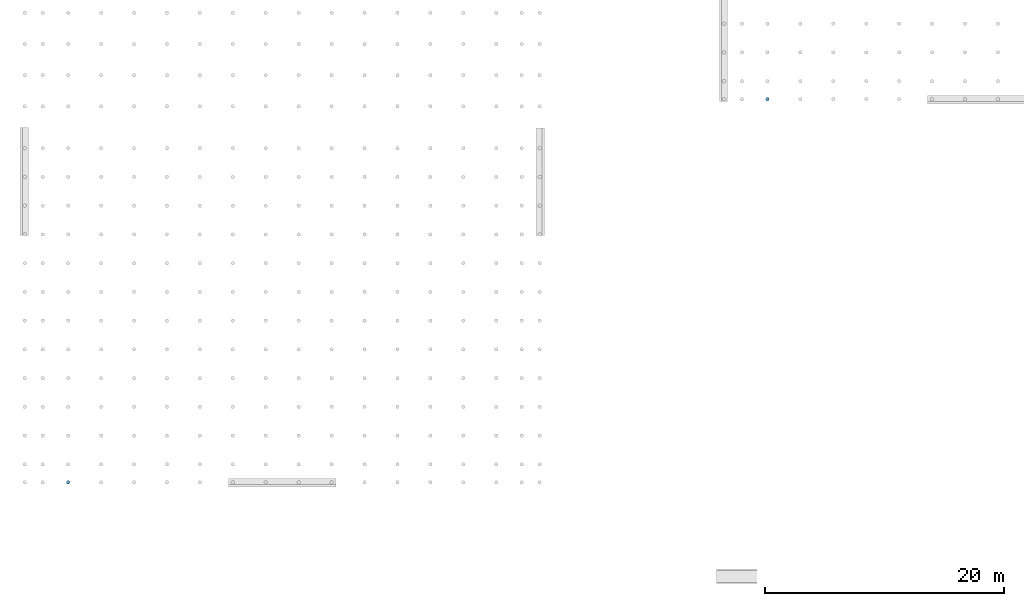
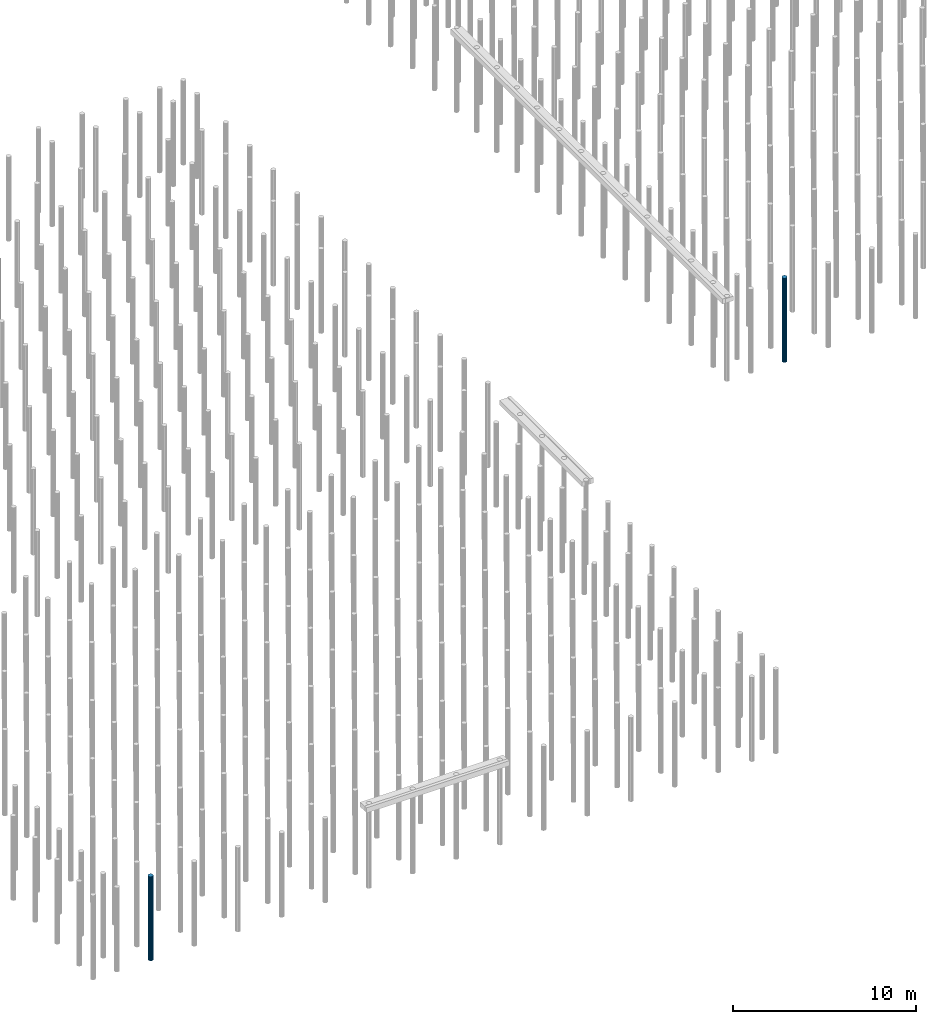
# One storey, part 1 of 102: 4 slabs.
"""IFC2X3 building model written with IfcOpenShell, lengths in millimetres."""

from ifc_helpers import new_model, entity, si_unit, converted_unit, derived_unit, money_unit, direction, frame, origin_with_axes, place, context, subcontext, project, spatial, faceted_brep, source, transform, mapped, material, type_object, type_shapes, element, save


model = new_model("IFC2X3")

# Units and contexts
model_context = context("Model", 3, precision=0.01, world=origin_with_axes(), true_north=direction((0.0, 1.0)))
body_context = subcontext(model_context, "Body", "Model", "MODEL_VIEW")
ifc_project = project(units=[si_unit("LENGTHUNIT", "METRE", prefix="MILLI"), si_unit("AREAUNIT", "SQUARE_METRE"), si_unit("VOLUMEUNIT", "CUBIC_METRE"), converted_unit("PLANEANGLEUNIT", "DEGREE", entity("IfcPlaneAngleMeasure", 0.0174532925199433), si_unit("PLANEANGLEUNIT", "RADIAN"), dimensions=[0, 0, 0, 0, 0, 0, 0]), money_unit("EUR"), converted_unit("TIMEUNIT", "Year", entity("IfcTimeMeasure", 31557600.0), si_unit("TIMEUNIT", "SECOND"), dimensions=[0, 0, 1, 0, 0, 0, 0]), si_unit("MASSUNIT", "GRAM", prefix="KILO"), si_unit("THERMODYNAMICTEMPERATUREUNIT", "DEGREE_CELSIUS"), si_unit("LUMINOUSINTENSITYUNIT", "LUMEN"), si_unit("ENERGYUNIT", "JOULE", prefix="MEGA"), derived_unit("THERMALCONDUCTANCEUNIT", [(si_unit("POWERUNIT", "WATT"), 1), (si_unit("LENGTHUNIT", "METRE"), -1), (si_unit("THERMODYNAMICTEMPERATUREUNIT", "KELVIN"), -1)]), derived_unit("SPECIFICHEATCAPACITYUNIT", [(si_unit("ENERGYUNIT", "JOULE"), 1), (si_unit("MASSUNIT", "GRAM", prefix="KILO"), -1), (si_unit("THERMODYNAMICTEMPERATUREUNIT", "KELVIN"), -1)]), derived_unit("MASSDENSITYUNIT", [(si_unit("MASSUNIT", "GRAM", prefix="KILO"), 1), (si_unit("VOLUMEUNIT", "CUBIC_METRE"), -1)])], contexts=[model_context])

# Site, building, storey
site_placement = place(None, origin_with_axes())
site = spatial("IfcSite", under=ifc_project, at=site_placement, Name="Site", CompositionType="ELEMENT")
building_placement = place(site_placement, origin_with_axes())
building = spatial("IfcBuilding", under=site, at=building_placement, Name="Naam gebouw", CompositionType="ELEMENT")
storey_placement = place(building_placement, frame((0.0, 0.0, -1020.0), z_axis=(0.0, 0.0, 1.0), x_axis=(1.0, 0.0, 0.0)))
storey = spatial("IfcBuildingStorey", under=building, at=storey_placement, Name="-2 fundering", CompositionType="ELEMENT", Elevation=-1020.0)

# Slabs
ifc_material = material(Name="WSP_beton - ihwg beton")
slab_type_1 = type_object("IfcSlabType", Name="Slab 397", PredefinedType="NOTDEFINED")
shared_shape_1 = source(origin_with_axes(), body_context, "Body", "Brep", [
    faceted_brep([(3726.0, 101.0, -5980.0), (3724.0, 101.0, -5980.0), (3724.0, 101.0, -5978.000000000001), (3726.0, 101.0, -5978.000000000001), (3726.0, 99.0, -5980.0), (3724.0, 99.0, -5980.0), (3724.0, 99.0, -5978.000000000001), (3726.0, 99.0, -5978.000000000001)], [[[0, 1, 2, 3]], [[0, 4, 5, 1]], [[1, 5, 6, 2]], [[3, 2, 6, 7]], [[4, 0, 3, 7]], [[5, 4, 7, 6]]]),
    faceted_brep([(3575.0, 100.0, -5980.0), (3586.418070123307, 42.59748514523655, -5980.0), (3586.418070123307, 42.59748514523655, -380.0000000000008), (3575.0, 100.0, -380.0000000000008), (3586.418070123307, 157.4025148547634, -5980.0), (3618.933982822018, 206.0660171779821, -5980.0), (3667.597485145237, 238.581929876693, -5980.0), (3725.0, 250.0, -5980.0), (3782.402514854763, 238.581929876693, -5980.0), (3831.066017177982, 206.0660171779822, -5980.0), (3863.581929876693, 157.4025148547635, -5980.0), (3875.0, 100.0, -5980.0), (3863.581929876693, 42.59748514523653, -5980.0), (3831.066017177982, -6.066017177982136, -5980.0), (3782.402514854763, -38.58192987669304, -5980.0), (3725.0, -50.00000000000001, -5980.0), (3667.597485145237, -38.58192987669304, -5980.0), (3618.933982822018, -6.066017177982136, -5980.0), (3618.933982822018, -6.066017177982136, -380.0000000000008), (3667.597485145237, -38.58192987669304, -380.0000000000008), (3725.0, -50.00000000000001, -380.0000000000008), (3782.402514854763, -38.58192987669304, -380.0000000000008), (3831.066017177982, -6.066017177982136, -380.0000000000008), (3863.581929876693, 42.59748514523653, -380.0000000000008), (3875.0, 100.0, -380.0000000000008), (3863.581929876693, 157.4025148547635, -380.0000000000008), (3831.066017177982, 206.0660171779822, -380.0000000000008), (3782.402514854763, 238.581929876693, -380.0000000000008), (3725.0, 250.0, -380.0000000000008), (3667.597485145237, 238.581929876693, -380.0000000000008), (3618.933982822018, 206.0660171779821, -380.0000000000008), (3586.418070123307, 157.4025148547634, -380.0000000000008)], [[[0, 1, 2, 3]], [[0, 4, 5, 6, 7, 8, 9, 10, 11, 12, 13, 14, 15, 16, 17, 1]], [[1, 17, 18, 2]], [[3, 2, 18, 19, 20, 21, 22, 23, 24, 25, 26, 27, 28, 29, 30, 31]], [[4, 0, 3, 31]], [[5, 4, 31, 30]], [[6, 5, 30, 29]], [[7, 6, 29, 28]], [[8, 7, 28, 27]], [[9, 8, 27, 26]], [[10, 9, 26, 25]], [[11, 10, 25, 24]], [[12, 11, 24, 23]], [[13, 12, 23, 22]], [[14, 13, 22, 21]], [[15, 14, 21, 20]], [[16, 15, 20, 19]], [[17, 16, 19, 18]]]),
])
type_shapes(slab_type_1, [shared_shape_1])
slab_1_placement = place(storey_placement, frame((25299.99999999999, 30000.0, 979.9999952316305), z_axis=(0.0, 0.0, 1.0), x_axis=(1.0, 0.0, 0.0)))
element("IfcSlab", 1, at=slab_1_placement, inside=storey, type_object=slab_type_1, material=ifc_material, Name="17_WSP_FD_beton - fundatiepaal v21-2:ø300 (schroef)", PredefinedType="NOTDEFINED", context=body_context, shape_type="MappedRepresentation", body=[
    mapped(shared_shape_1, transform((0.0, 0.0, 0.0))),
])
slab_type_2 = type_object("IfcSlabType", Name="Slab 929", PredefinedType="NOTDEFINED")
type_shapes(slab_type_2, [shared_shape_1])
slab_2_placement = place(storey_placement, frame((25299.99999999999, 30000.0, 979.9999952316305), z_axis=(0.0, 0.0, 1.0), x_axis=(1.0, 0.0, 0.0)))
element("IfcSlab", 2, at=slab_2_placement, inside=storey, type_object=slab_type_2, material=ifc_material, Name="17_WSP_FD_beton - fundatiepaal v21-2:ø300 (schroef)", PredefinedType="NOTDEFINED", context=body_context, shape_type="MappedRepresentation", body=[
    mapped(shared_shape_1, transform((0.0, 0.0, 0.0))),
])
slab_type_3 = type_object("IfcSlabType", Name="Slab 695", PredefinedType="NOTDEFINED")
shared_shape_2 = source(origin_with_axes(), body_context, "Body", "Brep", [
    faceted_brep([(62126.0, 32101.0, -5980.0), (62124.0, 32101.0, -5980.0), (62124.0, 32101.0, -5978.000000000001), (62126.0, 32101.0, -5978.000000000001), (62126.0, 32099.0, -5980.0), (62124.0, 32099.0, -5980.0), (62124.0, 32099.0, -5978.000000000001), (62126.0, 32099.0, -5978.000000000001)], [[[0, 1, 2, 3]], [[0, 4, 5, 1]], [[1, 5, 6, 2]], [[3, 2, 6, 7]], [[4, 0, 3, 7]], [[5, 4, 7, 6]]]),
    faceted_brep([(61975.0, 32100.0, -5980.0), (61986.41807012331, 32042.59748514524, -5980.0), (61986.41807012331, 32042.59748514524, -380.0000000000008), (61975.0, 32100.0, -380.0000000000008), (61986.41807012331, 32157.40251485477, -5980.0), (62018.93398282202, 32206.06601717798, -5980.0), (62067.59748514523, 32238.58192987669, -5980.0), (62125.0, 32250.0, -5980.0), (62182.40251485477, 32238.58192987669, -5980.0), (62231.06601717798, 32206.06601717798, -5980.0), (62263.58192987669, 32157.40251485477, -5980.0), (62275.0, 32100.0, -5980.0), (62263.58192987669, 32042.59748514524, -5980.0), (62231.06601717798, 31993.93398282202, -5980.0), (62182.40251485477, 31961.41807012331, -5980.0), (62125.0, 31950.0, -5980.0), (62067.59748514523, 31961.41807012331, -5980.0), (62018.93398282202, 31993.93398282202, -5980.0), (62018.93398282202, 31993.93398282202, -380.0000000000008), (62067.59748514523, 31961.41807012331, -380.0000000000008), (62125.0, 31950.0, -380.0000000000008), (62182.40251485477, 31961.41807012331, -380.0000000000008), (62231.06601717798, 31993.93398282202, -380.0000000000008), (62263.58192987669, 32042.59748514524, -380.0000000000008), (62275.0, 32100.0, -380.0000000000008), (62263.58192987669, 32157.40251485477, -380.0000000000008), (62231.06601717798, 32206.06601717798, -380.0000000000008), (62182.40251485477, 32238.58192987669, -380.0000000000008), (62125.0, 32250.0, -380.0000000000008), (62067.59748514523, 32238.58192987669, -380.0000000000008), (62018.93398282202, 32206.06601717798, -380.0000000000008), (61986.41807012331, 32157.40251485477, -380.0000000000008)], [[[0, 1, 2, 3]], [[0, 4, 5, 6, 7, 8, 9, 10, 11, 12, 13, 14, 15, 16, 17, 1]], [[1, 17, 18, 2]], [[3, 2, 18, 19, 20, 21, 22, 23, 24, 25, 26, 27, 28, 29, 30, 31]], [[4, 0, 3, 31]], [[5, 4, 31, 30]], [[6, 5, 30, 29]], [[7, 6, 29, 28]], [[8, 7, 28, 27]], [[9, 8, 27, 26]], [[10, 9, 26, 25]], [[11, 10, 25, 24]], [[12, 11, 24, 23]], [[13, 12, 23, 22]], [[14, 13, 22, 21]], [[15, 14, 21, 20]], [[16, 15, 20, 19]], [[17, 16, 19, 18]]]),
])
type_shapes(slab_type_3, [shared_shape_2])
slab_3_placement = place(storey_placement, frame((25299.99999999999, 30000.0, 979.9999952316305), z_axis=(0.0, 0.0, 1.0), x_axis=(1.0, 0.0, 0.0)))
element("IfcSlab", 3, at=slab_3_placement, inside=storey, type_object=slab_type_3, material=ifc_material, Name="17_WSP_FD_beton - fundatiepaal v21-2:ø300 (schroef)", PredefinedType="NOTDEFINED", context=body_context, shape_type="MappedRepresentation", body=[
    mapped(shared_shape_2, transform((0.0, 0.0, 0.0))),
])
slab_type_4 = type_object("IfcSlabType", Name="Slab 800", PredefinedType="NOTDEFINED")
type_shapes(slab_type_4, [shared_shape_2])
slab_4_placement = place(storey_placement, frame((25299.99999999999, 30000.0, 979.9999952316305), z_axis=(0.0, 0.0, 1.0), x_axis=(1.0, 0.0, 0.0)))
element("IfcSlab", 4, at=slab_4_placement, inside=storey, type_object=slab_type_4, material=ifc_material, Name="17_WSP_FD_beton - fundatiepaal v21-2:ø300 (schroef)", PredefinedType="NOTDEFINED", context=body_context, shape_type="MappedRepresentation", body=[
    mapped(shared_shape_2, transform((0.0, 0.0, 0.0))),
])

save(model, "model.ifc")
